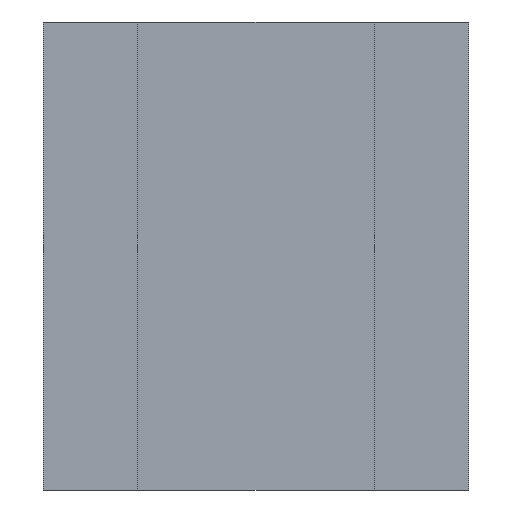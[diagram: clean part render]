
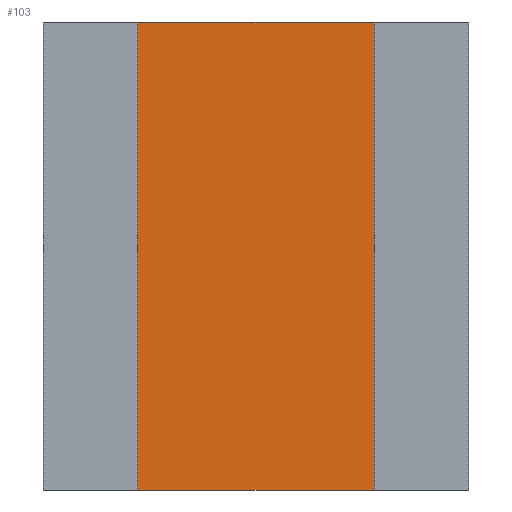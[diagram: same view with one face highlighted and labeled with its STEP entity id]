
A CAD part, left-side view. The second image highlights one B-rep face of the part: STEP entity #103.
In plain terms, the highlighted planar face has unit normal (-1, 0, 0).
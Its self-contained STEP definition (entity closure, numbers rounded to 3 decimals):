
#48 = CARTESIAN_POINT ( 'NONE',  ( -0.825, 0.2, 0.495 ) ) ;
#103 = ADVANCED_FACE ( 'NONE', ( #1978 ), #1050, .F. ) ;
#142 = EDGE_CURVE ( 'NONE', #3618, #608, #1123, .T. ) ;
#166 = EDGE_CURVE ( 'NONE', #187, #608, #1170, .T. ) ;
#187 = VERTEX_POINT ( 'NONE', #2230 ) ;
#423 = VECTOR ( 'NONE', #1600, 1000. ) ;
#475 = DIRECTION ( 'NONE',  ( 1., 0., 0. ) ) ;
#509 = EDGE_LOOP ( 'NONE', ( #2793, #2835, #2578, #3664 ) ) ;
#544 = CARTESIAN_POINT ( 'NONE',  ( -0.825, 0.2, 0.495 ) ) ;
#608 = VERTEX_POINT ( 'NONE', #2128 ) ;
#668 = DIRECTION ( 'NONE',  ( 0., -1., 0. ) ) ;
#742 = CARTESIAN_POINT ( 'NONE',  ( -0.825, 0.2, 0.495 ) ) ;
#1017 = CARTESIAN_POINT ( 'NONE',  ( -0.825, 0.2, -0.495 ) ) ;
#1028 = DIRECTION ( 'NONE',  ( 0., 0., -1. ) ) ;
#1050 = PLANE ( 'NONE',  #3347 ) ;
#1123 = LINE ( 'NONE', #1291, #2639 ) ;
#1170 = LINE ( 'NONE', #1017, #423 ) ;
#1291 = CARTESIAN_POINT ( 'NONE',  ( -0.825, -0.3, 0.495 ) ) ;
#1514 = EDGE_CURVE ( 'NONE', #3346, #187, #2909, .T. ) ;
#1579 = DIRECTION ( 'NONE',  ( 0., 0., -1. ) ) ;
#1600 = DIRECTION ( 'NONE',  ( 0., -1., 0. ) ) ;
#1978 = FACE_OUTER_BOUND ( 'NONE', #509, .T. ) ;
#2044 = LINE ( 'NONE', #48, #2759 ) ;
#2060 = CARTESIAN_POINT ( 'NONE',  ( -0.825, -0.3, 0.495 ) ) ;
#2128 = CARTESIAN_POINT ( 'NONE',  ( -0.825, -0.3, -0.495 ) ) ;
#2203 = VECTOR ( 'NONE', #1579, 1000. ) ;
#2230 = CARTESIAN_POINT ( 'NONE',  ( -0.825, 0.2, -0.495 ) ) ;
#2578 = ORIENTED_EDGE ( 'NONE', *, *, #2905, .F. ) ;
#2639 = VECTOR ( 'NONE', #2727, 1000. ) ;
#2727 = DIRECTION ( 'NONE',  ( 0., 0., -1. ) ) ;
#2759 = VECTOR ( 'NONE', #668, 1000. ) ;
#2793 = ORIENTED_EDGE ( 'NONE', *, *, #166, .T. ) ;
#2835 = ORIENTED_EDGE ( 'NONE', *, *, #142, .F. ) ;
#2905 = EDGE_CURVE ( 'NONE', #3346, #3618, #2044, .T. ) ;
#2909 = LINE ( 'NONE', #742, #2203 ) ;
#3048 = CARTESIAN_POINT ( 'NONE',  ( -0.825, 0.2, 0.495 ) ) ;
#3346 = VERTEX_POINT ( 'NONE', #544 ) ;
#3347 = AXIS2_PLACEMENT_3D ( 'NONE', #3048, #475, #1028 ) ;
#3618 = VERTEX_POINT ( 'NONE', #2060 ) ;
#3664 = ORIENTED_EDGE ( 'NONE', *, *, #1514, .T. ) ;
